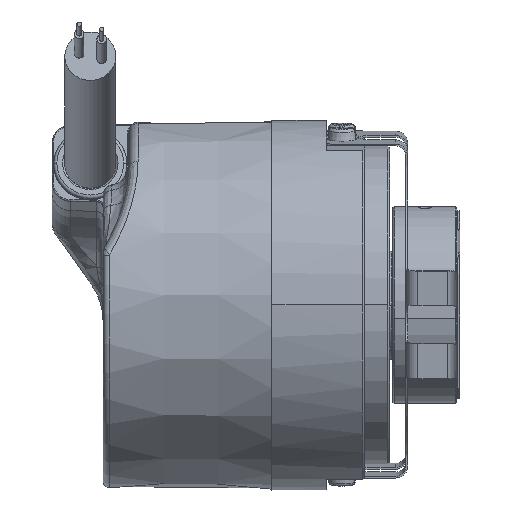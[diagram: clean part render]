
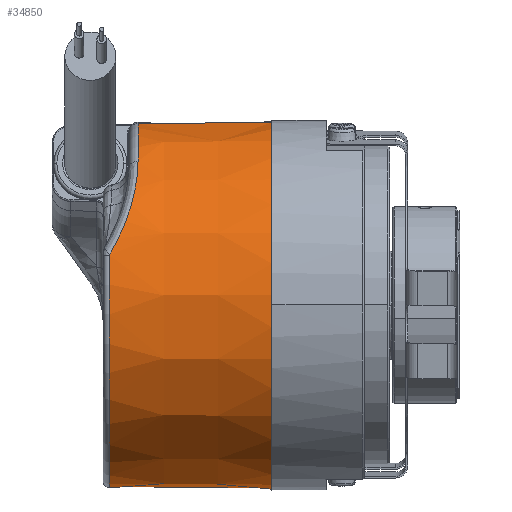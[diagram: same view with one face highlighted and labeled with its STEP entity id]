
A CAD part, top view. The second image highlights one B-rep face of the part: STEP entity #34850.
In plain terms, the highlighted conical face has half-angle 0.5 degrees and reference radius 29 mm.
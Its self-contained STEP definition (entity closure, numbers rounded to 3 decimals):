
#4217 = CARTESIAN_POINT ( 'NONE',  ( 7.5, 0., 0. ) ) ;
#4218 = DIRECTION ( 'NONE',  ( 1., 0., 0. ) ) ;
#4219 = DIRECTION ( 'NONE',  ( 0., -0.992, -0.122 ) ) ;
#4220 = CARTESIAN_POINT ( 'NONE',  ( -13.513, 22.568, 17.757 ) ) ;
#4221 = CARTESIAN_POINT ( 'NONE',  ( -13.513, 21.592, 18.997 ) ) ;
#4222 = CARTESIAN_POINT ( 'NONE',  ( -13.587, 20.526, 20.142 ) ) ;
#4223 = CARTESIAN_POINT ( 'NONE',  ( -13.798, 19.086, 21.456 ) ) ;
#4224 = CARTESIAN_POINT ( 'NONE',  ( -13.846, 18.792, 21.713 ) ) ;
#4225 = CARTESIAN_POINT ( 'NONE',  ( -13.955, 18.195, 22.215 ) ) ;
#4226 = CARTESIAN_POINT ( 'NONE',  ( -14.016, 17.89, 22.46 ) ) ;
#4227 = CARTESIAN_POINT ( 'NONE',  ( -14.216, 16.971, 23.17 ) ) ;
#4228 = CARTESIAN_POINT ( 'NONE',  ( -14.374, 16.348, 23.612 ) ) ;
#4229 = CARTESIAN_POINT ( 'NONE',  ( -14.923, 14.449, 24.848 ) ) ;
#4230 = CARTESIAN_POINT ( 'NONE',  ( -15.389, 13.145, 25.554 ) ) ;
#4231 = CARTESIAN_POINT ( 'NONE',  ( -16.255, 11.146, 26.449 ) ) ;
#4232 = CARTESIAN_POINT ( 'NONE',  ( -16.572, 10.473, 26.719 ) ) ;
#4233 = CARTESIAN_POINT ( 'NONE',  ( -17.253, 9.137, 27.199 ) ) ;
#4234 = CARTESIAN_POINT ( 'NONE',  ( -17.619, 8.472, 27.409 ) ) ;
#4235 = CARTESIAN_POINT ( 'NONE',  ( -18.009, 7.811, 27.593 ) ) ;
#4349 = LINE ( 'NONE', #4350, #28650 ) ;
#4350 = CARTESIAN_POINT ( 'NONE',  ( 19., -28.782, -3.546 ) ) ;
#4351 = DIRECTION ( 'NONE',  ( 1., -0.009, -0.001 ) ) ;
#4358 = LINE ( 'NONE', #4359, #28175 ) ;
#4359 = CARTESIAN_POINT ( 'NONE',  ( 19., 28.782, 3.546 ) ) ;
#4360 = DIRECTION ( 'NONE',  ( 1., 0.009, 0.001 ) ) ;
#6475 = AXIS2_PLACEMENT_3D ( 'NONE', #7684, #7685, #7686 ) ;
#6478 = AXIS2_PLACEMENT_3D ( 'NONE', #7699, #7700, #7701 ) ;
#7270 = AXIS2_PLACEMENT_3D ( 'NONE', #11415, #11416, #11417 ) ;
#7271 = FACE_OUTER_BOUND ( 'NONE', #44954, .T. ) ;
#7684 = CARTESIAN_POINT ( 'NONE',  ( -18.009, 0., 0. ) ) ;
#7685 = DIRECTION ( 'NONE',  ( 1., 0., 0. ) ) ;
#7686 = DIRECTION ( 'NONE',  ( 0., 0.992, 0.122 ) ) ;
#7699 = CARTESIAN_POINT ( 'NONE',  ( -13.513, 0., 0. ) ) ;
#7700 = DIRECTION ( 'NONE',  ( 1., 0., 0. ) ) ;
#7701 = DIRECTION ( 'NONE',  ( 0., -0.992, -0.122 ) ) ;
#8924 = CONICAL_SURFACE ( 'NONE', #7270, 29., 0.009 ) ;
#11415 = CARTESIAN_POINT ( 'NONE',  ( 19., 0., 0. ) ) ;
#11416 = DIRECTION ( 'NONE',  ( 1., 0., 0. ) ) ;
#11417 = DIRECTION ( 'NONE',  ( 0., -0.992, -0.122 ) ) ;
#18742 = CARTESIAN_POINT ( 'NONE',  ( -13.513, 28.501, 3.512 ) ) ;
#18743 = CARTESIAN_POINT ( 'NONE',  ( -13.513, 22.568, 17.757 ) ) ;
#18762 = CARTESIAN_POINT ( 'NONE',  ( -18.009, 7.811, 27.593 ) ) ;
#18763 = CARTESIAN_POINT ( 'NONE',  ( -18.009, -28.462, -3.507 ) ) ;
#20037 = CARTESIAN_POINT ( 'NONE',  ( 7.5, 28.683, 3.534 ) ) ;
#20039 = CARTESIAN_POINT ( 'NONE',  ( 7.5, -28.683, -3.534 ) ) ;
#28175 = VECTOR ( 'NONE', #4360, 1000. ) ;
#28650 = VECTOR ( 'NONE', #4351, 1000. ) ;
#29217 = AXIS2_PLACEMENT_3D ( 'NONE', #4217, #4218, #4219 ) ;
#33993 = EDGE_CURVE ( 'NONE', #46455, #46459, #60619, .T. ) ;
#33994 = EDGE_CURVE ( 'NONE', #41931, #41950, #38920, .T. ) ;
#34021 = EDGE_CURVE ( 'NONE', #41951, #46459, #4349, .T. ) ;
#34024 = EDGE_CURVE ( 'NONE', #41930, #46455, #4358, .T. ) ;
#34420 = EDGE_CURVE ( 'NONE', #41950, #41951, #60877, .T. ) ;
#34425 = EDGE_CURVE ( 'NONE', #41930, #41931, #60887, .T. ) ;
#34850 = ADVANCED_FACE ( 'NONE', ( #7271 ), #8924, .T. ) ;
#38920 = B_SPLINE_CURVE_WITH_KNOTS ( 'NONE', 3,
 ( #4220, #4221, #4222, #4223, #4224, #4225, #4226, #4227, #4228, #4229, #4230, #4231, #4232, #4233, #4234, #4235 ),
 .UNSPECIFIED., .F., .F.,
 ( 4, 2, 2, 2, 2, 2, 2, 4 ),
 ( 0., 0.005, 0.006, 0.007, 0.009, 0.014, 0.016, 0.019 ),
 .UNSPECIFIED. ) ;
#41930 = VERTEX_POINT ( 'NONE', #18742 ) ;
#41931 = VERTEX_POINT ( 'NONE', #18743 ) ;
#41950 = VERTEX_POINT ( 'NONE', #18762 ) ;
#41951 = VERTEX_POINT ( 'NONE', #18763 ) ;
#44954 = EDGE_LOOP ( 'NONE', ( #52718, #52719, #52720, #52722, #52723, #52721 ) ) ;
#46455 = VERTEX_POINT ( 'NONE', #20037 ) ;
#46459 = VERTEX_POINT ( 'NONE', #20039 ) ;
#52718 = ORIENTED_EDGE ( 'NONE', *, *, #34024, .F. ) ;
#52719 = ORIENTED_EDGE ( 'NONE', *, *, #34425, .T. ) ;
#52720 = ORIENTED_EDGE ( 'NONE', *, *, #33994, .T. ) ;
#52721 = ORIENTED_EDGE ( 'NONE', *, *, #33993, .F. ) ;
#52722 = ORIENTED_EDGE ( 'NONE', *, *, #34420, .T. ) ;
#52723 = ORIENTED_EDGE ( 'NONE', *, *, #34021, .T. ) ;
#60619 = CIRCLE ( 'NONE', #29217, 28.9 ) ;
#60877 = CIRCLE ( 'NONE', #6475, 28.677 ) ;
#60887 = CIRCLE ( 'NONE', #6478, 28.716 ) ;
